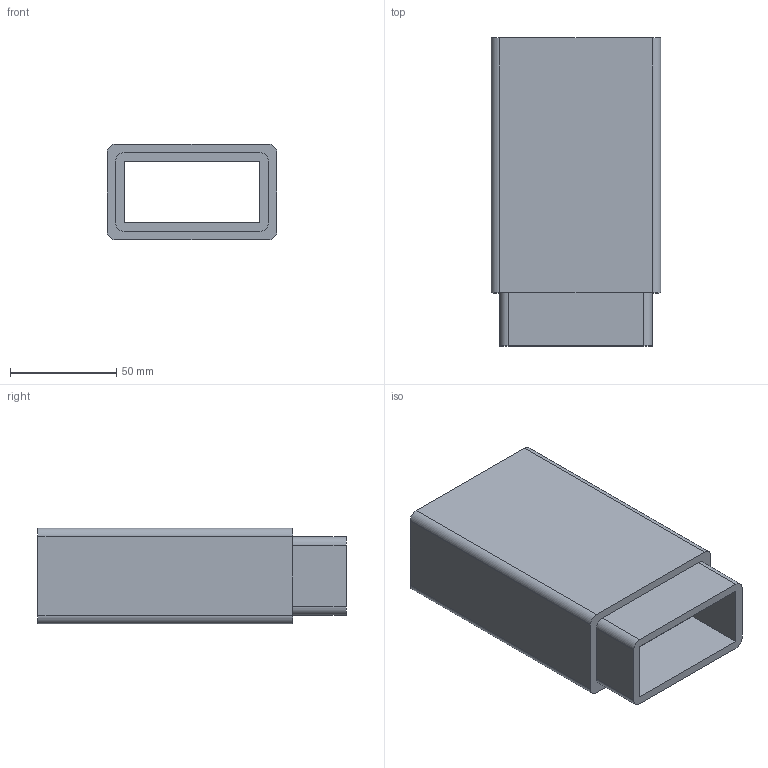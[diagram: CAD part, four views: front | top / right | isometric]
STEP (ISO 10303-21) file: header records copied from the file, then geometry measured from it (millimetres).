
FILE_DESCRIPTION (( 'STEP AP203' ), '1' );
FILE_NAME ('STL-Stab senkrecht2.STEP', '2020-10-10T10:06:07', ( '' ), ( '' ), 'SwSTEP 2.0', 'SolidWorks 2018', '' );
FILE_SCHEMA (( 'CONFIG_CONTROL_DESIGN' ));
Length unit declared in the file: millimetre
Products named in the file (1): STL-Stab senkrecht2
Bounding box: 80 x 145 x 45 mm (x, y, z)
Volume: 133760.5 mm3; surface area: 68596.8 mm2
Topology: 1 solids, 1 shells, 28 faces, 72 edges, 48 vertices
Faces by surface type: plane 20, cylinder 8
Entity records: 933 total; most frequent: CARTESIAN_POINT 149, DIRECTION 146, ORIENTED_EDGE 144, EDGE_CURVE 72, LINE 56, VECTOR 56, VERTEX_POINT 48, AXIS2_PLACEMENT_3D 45
